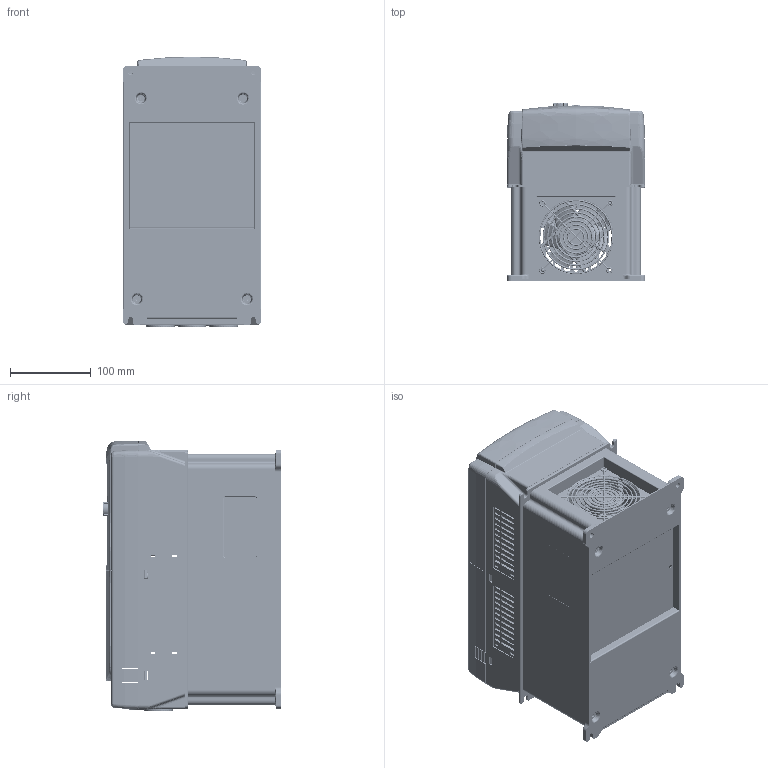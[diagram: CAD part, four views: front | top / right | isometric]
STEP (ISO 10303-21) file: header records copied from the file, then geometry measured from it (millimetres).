
FILE_DESCRIPTION (( 'STEP AP203' ), '1' );
FILE_NAME ('UMI-[0075~0110]EU-B5_UMI-[0040~0055]CU-B5.STEP', '2020-03-29T15:13:40', ( '' ), ( '' ), 'SwSTEP 2.0', 'SolidWorks 2017', '' );
FILE_SCHEMA (( 'CONFIG_CONTROL_DESIGN' ));
Length unit declared in the file: millimetre
Products named in the file (33): PRT-005; PRT-001; PRT-008; PRT-0013; PRT-003; ASM_001; PRT-0010; PRT-004; PRT-0014; PRT-006; PRT-0012; PRT-0011; PRT-002; PRT-007; PRT-009; UMI-[0075~0110]EU-B5_UMI-[0040~0055]CU-B5
Assembly tree (18 placements, depth 3):
  PRT-005
  PRT-001
  PRT-008
  PRT-0013
  PRT-003
Bounding box: 170 x 219.35 x 334.28 mm (x, y, z)
Volume: 476237.6 mm3; surface area: 1114950.6 mm2
Topology: 23 solids, 32 shells, 8225 faces, 23655 edges, 15438 vertices
Faces by surface type: plane 4929, cylinder 1707, bspline 1409, cone 166, torus 14
Entity records: 349025 total; most frequent: CARTESIAN_POINT 151427, ORIENTED_EDGE 46388, DIRECTION 31087, EDGE_CURVE 23253, VERTEX_POINT 15218, VECTOR 14005, LINE 14005, EDGE_LOOP 8816
